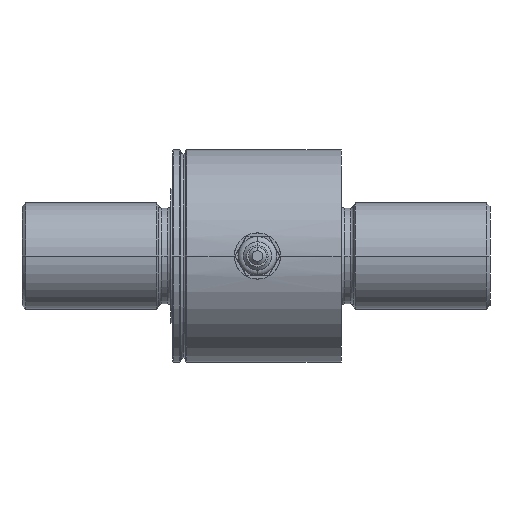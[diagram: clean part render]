
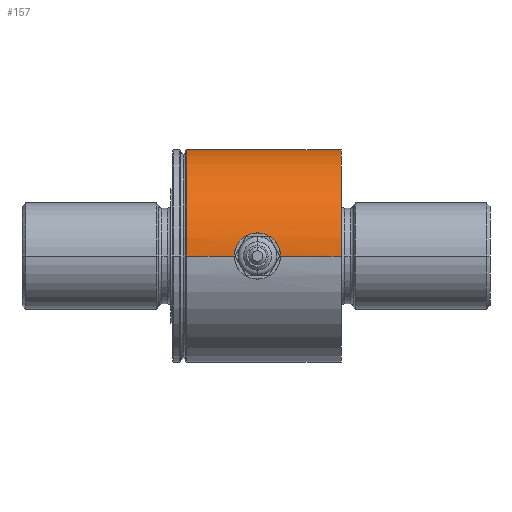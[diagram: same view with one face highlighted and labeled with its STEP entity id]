
A CAD part, left-side view. The second image highlights one B-rep face of the part: STEP entity #157.
In plain terms, the highlighted cylindrical face has radius 30 mm (diameter 60 mm), a partial arc.
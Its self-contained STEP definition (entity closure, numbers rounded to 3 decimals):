
#157=ADVANCED_FACE('',(#330),#331,.T.);
#330=FACE_OUTER_BOUND('',#636,.T.);
#331=CYLINDRICAL_SURFACE('',#637,30.0);
#636=EDGE_LOOP('',(#1139,#1140,#1141,#1142,#1143,#1144));
#637=AXIS2_PLACEMENT_3D('',#1145,#1146,#1147);
#1139=ORIENTED_EDGE('',*,*,#2109,.F.);
#1140=ORIENTED_EDGE('',*,*,#2015,.F.);
#1141=ORIENTED_EDGE('',*,*,#2110,.F.);
#1142=ORIENTED_EDGE('',*,*,#2111,.T.);
#1143=ORIENTED_EDGE('',*,*,#2112,.F.);
#1144=ORIENTED_EDGE('',*,*,#2113,.F.);
#1145=CARTESIAN_POINT('',(0.0,48.0,0.0));
#1146=DIRECTION('',(0.0,-1.0,0.0));
#1147=DIRECTION('',(1.0,0.0,0.0));
#2015=EDGE_CURVE('',#2458,#2454,#2460,.T.);
#2109=EDGE_CURVE('',#2454,#2632,#2633,.T.);
#2110=EDGE_CURVE('',#2480,#2458,#2634,.T.);
#2111=EDGE_CURVE('',#2480,#2483,#2635,.T.);
#2112=EDGE_CURVE('',#2636,#2483,#2637,.T.);
#2113=EDGE_CURVE('',#2632,#2636,#2638,.T.);
#2454=VERTEX_POINT('',#3009);
#2458=VERTEX_POINT('',#3014);
#2460=CIRCLE('',#3017,30.0);
#2480=VERTEX_POINT('',#3043);
#2483=VERTEX_POINT('',#3047);
#2632=VERTEX_POINT('',#3241);
#2633=LINE('',#3242,#3243);
#2634=LINE('',#3244,#3245);
#2635=B_SPLINE_CURVE_WITH_KNOTS('',3,(#3246,#3247,#3248,#3249,#3250,#3251,#3252,#3253,#3254,#3255,#3256,#3257,#3258,#3259,#3260,#3261,#3262,#3263),.UNSPECIFIED.,.F.,.F.,(4,2,2,2,2,2,2,2,4),(0.983,1.228,1.474,1.72,1.965,2.211,2.457,2.703,2.948),.UNSPECIFIED.);
#2636=VERTEX_POINT('',#3264);
#2637=LINE('',#3265,#3266);
#2638=CIRCLE('',#3267,30.0);
#3009=CARTESIAN_POINT('',(30.0,85.55,0.));
#3014=CARTESIAN_POINT('',(-30.0,85.55,0.));
#3017=AXIS2_PLACEMENT_3D('',#3739,#3740,#3741);
#3043=CARTESIAN_POINT('',(-30.0,72.1,0.));
#3047=CARTESIAN_POINT('',(-30.0,59.1,0.));
#3241=CARTESIAN_POINT('',(30.0,42.0,0.0));
#3242=CARTESIAN_POINT('',(30.0,48.0,0.));
#3243=VECTOR('',#3950,1.0);
#3244=CARTESIAN_POINT('',(-30.0,48.0,0.));
#3245=VECTOR('',#3951,1.0);
#3246=CARTESIAN_POINT('',(-30.0,72.1,0.));
#3247=CARTESIAN_POINT('',(-30.0,72.1,0.819));
#3248=CARTESIAN_POINT('',(-29.963,71.936,1.691));
#3249=CARTESIAN_POINT('',(-29.83,71.272,3.291));
#3250=CARTESIAN_POINT('',(-29.735,70.772,4.021));
#3251=CARTESIAN_POINT('',(-29.557,69.621,5.172));
#3252=CARTESIAN_POINT('',(-29.461,68.891,5.672));
#3253=CARTESIAN_POINT('',(-29.325,67.291,6.336));
#3254=CARTESIAN_POINT('',(-29.287,66.419,6.5));
#3255=CARTESIAN_POINT('',(-29.287,64.781,6.5));
#3256=CARTESIAN_POINT('',(-29.325,63.909,6.336));
#3257=CARTESIAN_POINT('',(-29.461,62.309,5.672));
#3258=CARTESIAN_POINT('',(-29.557,61.579,5.172));
#3259=CARTESIAN_POINT('',(-29.735,60.428,4.021));
#3260=CARTESIAN_POINT('',(-29.83,59.928,3.291));
#3261=CARTESIAN_POINT('',(-29.963,59.264,1.691));
#3262=CARTESIAN_POINT('',(-30.0,59.1,0.819));
#3263=CARTESIAN_POINT('',(-30.0,59.1,0.));
#3264=CARTESIAN_POINT('',(-30.0,42.0,0.));
#3265=CARTESIAN_POINT('',(-30.0,48.0,0.));
#3266=VECTOR('',#3952,1.0);
#3267=AXIS2_PLACEMENT_3D('',#3953,#3954,#3955);
#3739=CARTESIAN_POINT('',(0.,85.55,0.));
#3740=DIRECTION('',(0.0,1.0,0.0));
#3741=DIRECTION('',(1.0,0.0,0.0));
#3950=DIRECTION('',(0.0,-1.0,0.0));
#3951=DIRECTION('',(0.0,1.0,0.0));
#3952=DIRECTION('',(0.0,1.0,0.0));
#3953=CARTESIAN_POINT('',(0.0,42.0,0.0));
#3954=DIRECTION('',(0.0,-1.0,0.0));
#3955=DIRECTION('',(1.0,0.0,0.0));
